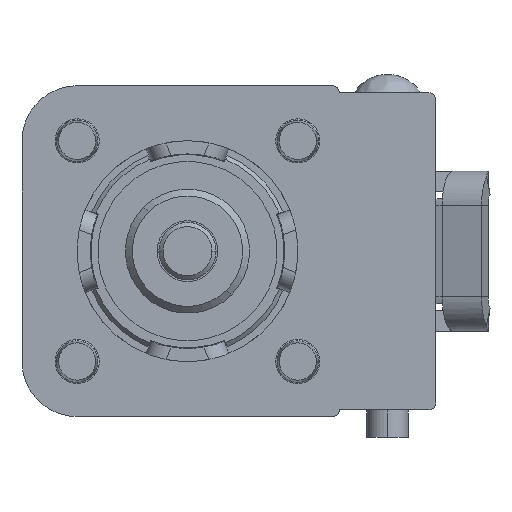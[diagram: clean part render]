
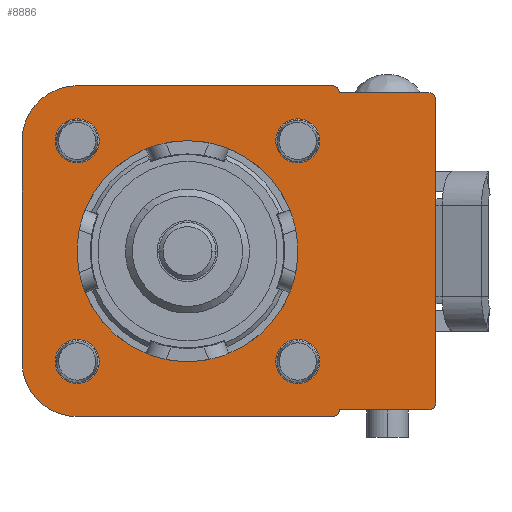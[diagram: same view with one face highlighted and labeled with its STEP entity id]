
A CAD part, front view. The second image highlights one B-rep face of the part: STEP entity #8886.
In plain terms, the highlighted planar face has unit normal (0, -1, 0).
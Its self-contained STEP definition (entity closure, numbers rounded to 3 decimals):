
#337=CARTESIAN_POINT('',(10.5,0.,11.5));
#338=DIRECTION('',(0.,-1.,0.));
#339=DIRECTION('',(1.,0.,0.));
#340=AXIS2_PLACEMENT_3D('',#337,#338,#339);
#395=DIRECTION('',(-1.,0.,0.));
#396=VECTOR('',#395,6.5);
#397=CARTESIAN_POINT('',(17.5,0.,11.5));
#398=LINE('',#397,#396);
#402=DIRECTION('',(0.,0.,-1.));
#403=VECTOR('',#402,22.);
#404=CARTESIAN_POINT('',(18.,0.,11.));
#405=LINE('',#404,#403);
#409=DIRECTION('',(-1.,0.,0.));
#410=VECTOR('',#409,6.5);
#411=CARTESIAN_POINT('',(17.5,0.,-11.5));
#412=LINE('',#411,#410);
#416=DIRECTION('',(-1.,0.,0.));
#417=VECTOR('',#416,18.5);
#418=CARTESIAN_POINT('',(10.5,0.,-12.));
#419=LINE('',#418,#417);
#423=DIRECTION('',(0.,0.,1.));
#424=VECTOR('',#423,16.);
#425=CARTESIAN_POINT('',(-12.,0.,-8.));
#426=LINE('',#425,#424);
#430=DIRECTION('',(1.,0.,0.));
#431=VECTOR('',#430,18.5);
#432=CARTESIAN_POINT('',(-8.,0.,12.));
#433=LINE('',#432,#431);
#437=CARTESIAN_POINT('',(0.,0.,0.));
#438=DIRECTION('',(0.,-1.,0.));
#439=DIRECTION('',(0.,0.,-1.));
#440=AXIS2_PLACEMENT_3D('',#437,#438,#439);
#445=CARTESIAN_POINT('',(0.,0.,0.));
#446=DIRECTION('',(0.,-1.,0.));
#447=DIRECTION('',(0.,0.,1.));
#448=AXIS2_PLACEMENT_3D('',#445,#446,#447);
#453=CARTESIAN_POINT('',(8.,0.,-8.));
#454=DIRECTION('',(0.,1.,0.));
#455=DIRECTION('',(1.,0.,0.));
#456=AXIS2_PLACEMENT_3D('',#453,#454,#455);
#461=CARTESIAN_POINT('',(8.,0.,-8.));
#462=DIRECTION('',(0.,1.,0.));
#463=DIRECTION('',(-1.,0.,0.));
#464=AXIS2_PLACEMENT_3D('',#461,#462,#463);
#469=CARTESIAN_POINT('',(-8.,0.,-8.));
#470=DIRECTION('',(0.,1.,0.));
#471=DIRECTION('',(1.,0.,0.));
#472=AXIS2_PLACEMENT_3D('',#469,#470,#471);
#477=CARTESIAN_POINT('',(-8.,0.,-8.));
#478=DIRECTION('',(0.,1.,0.));
#479=DIRECTION('',(-1.,0.,0.));
#480=AXIS2_PLACEMENT_3D('',#477,#478,#479);
#485=CARTESIAN_POINT('',(-8.,0.,8.));
#486=DIRECTION('',(0.,1.,0.));
#487=DIRECTION('',(1.,0.,0.));
#488=AXIS2_PLACEMENT_3D('',#485,#486,#487);
#493=CARTESIAN_POINT('',(-8.,0.,8.));
#494=DIRECTION('',(0.,1.,0.));
#495=DIRECTION('',(-1.,0.,0.));
#496=AXIS2_PLACEMENT_3D('',#493,#494,#495);
#501=CARTESIAN_POINT('',(8.,0.,8.));
#502=DIRECTION('',(0.,1.,0.));
#503=DIRECTION('',(1.,0.,0.));
#504=AXIS2_PLACEMENT_3D('',#501,#502,#503);
#509=CARTESIAN_POINT('',(8.,0.,8.));
#510=DIRECTION('',(0.,1.,0.));
#511=DIRECTION('',(-1.,0.,0.));
#512=AXIS2_PLACEMENT_3D('',#509,#510,#511);
#531=CARTESIAN_POINT('',(17.5,0.,11.));
#532=DIRECTION('',(0.,-1.,0.));
#533=DIRECTION('',(1.,0.,0.));
#534=AXIS2_PLACEMENT_3D('',#531,#532,#533);
#1209=CARTESIAN_POINT('',(17.5,0.,-11.));
#1210=DIRECTION('',(0.,-1.,0.));
#1211=DIRECTION('',(0.,0.,-1.));
#1212=AXIS2_PLACEMENT_3D('',#1209,#1210,#1211);
#1443=CARTESIAN_POINT('',(10.5,0.,-11.5));
#1444=DIRECTION('',(0.,-1.,0.));
#1445=DIRECTION('',(0.,0.,-1.));
#1446=AXIS2_PLACEMENT_3D('',#1443,#1444,#1445);
#1556=CARTESIAN_POINT('',(-8.,0.,8.));
#1557=DIRECTION('',(0.,-1.,0.));
#1558=DIRECTION('',(0.,0.,1.));
#1559=AXIS2_PLACEMENT_3D('',#1556,#1557,#1558);
#1578=CARTESIAN_POINT('',(-8.,0.,-8.));
#1579=DIRECTION('',(0.,-1.,0.));
#1580=DIRECTION('',(-1.,0.,0.));
#1581=AXIS2_PLACEMENT_3D('',#1578,#1579,#1580);
#7643=CARTESIAN_POINT('',(0.,0.,-8.));
#7645=VERTEX_POINT('',#7643);
#7647=CARTESIAN_POINT('',(0.,0.,8.));
#7649=VERTEX_POINT('',#7647);
#7759=CARTESIAN_POINT('',(9.6,0.,-8.));
#7760=CARTESIAN_POINT('',(6.4,0.,-8.));
#7761=VERTEX_POINT('',#7759);
#7762=VERTEX_POINT('',#7760);
#7763=CARTESIAN_POINT('',(-6.4,0.,-8.));
#7764=CARTESIAN_POINT('',(-9.6,0.,-8.));
#7765=VERTEX_POINT('',#7763);
#7766=VERTEX_POINT('',#7764);
#7767=CARTESIAN_POINT('',(-6.4,0.,8.));
#7768=CARTESIAN_POINT('',(-9.6,0.,8.));
#7769=VERTEX_POINT('',#7767);
#7770=VERTEX_POINT('',#7768);
#7771=CARTESIAN_POINT('',(9.6,0.,8.));
#7772=CARTESIAN_POINT('',(6.4,0.,8.));
#7773=VERTEX_POINT('',#7771);
#7774=VERTEX_POINT('',#7772);
#7851=CARTESIAN_POINT('',(17.5,0.,11.5));
#7852=VERTEX_POINT('',#7851);
#7853=CARTESIAN_POINT('',(18.,0.,11.));
#7854=VERTEX_POINT('',#7853);
#7871=CARTESIAN_POINT('',(18.,0.,-11.));
#7872=VERTEX_POINT('',#7871);
#7873=CARTESIAN_POINT('',(17.5,0.,-11.5));
#7874=VERTEX_POINT('',#7873);
#7877=CARTESIAN_POINT('',(-8.,0.,12.));
#7878=CARTESIAN_POINT('',(-12.,0.,8.));
#7879=VERTEX_POINT('',#7877);
#7880=VERTEX_POINT('',#7878);
#7881=CARTESIAN_POINT('',(-12.,0.,-8.));
#7882=CARTESIAN_POINT('',(-8.,0.,-12.));
#7883=VERTEX_POINT('',#7881);
#7884=VERTEX_POINT('',#7882);
#7901=CARTESIAN_POINT('',(11.,0.,11.5));
#7902=CARTESIAN_POINT('',(10.5,0.,12.));
#7903=VERTEX_POINT('',#7901);
#7904=VERTEX_POINT('',#7902);
#7910=CARTESIAN_POINT('',(10.5,0.,-12.));
#7911=VERTEX_POINT('',#7910);
#7912=CARTESIAN_POINT('',(11.,0.,-11.5));
#7913=VERTEX_POINT('',#7912);
#8827=CARTESIAN_POINT('',(0.,0.,0.));
#8828=DIRECTION('',(0.,1.,0.));
#8829=DIRECTION('',(1.,0.,0.));
#8830=AXIS2_PLACEMENT_3D('',#8827,#8828,#8829);
#8831=PLANE('',#8830);
#8832=ORIENTED_EDGE('',*,*,#8778,.F.);
#8833=ORIENTED_EDGE('',*,*,#8800,.F.);
#8835=ORIENTED_EDGE('',*,*,#8834,.F.);
#8837=ORIENTED_EDGE('',*,*,#8836,.T.);
#8839=ORIENTED_EDGE('',*,*,#8838,.F.);
#8841=ORIENTED_EDGE('',*,*,#8840,.T.);
#8843=ORIENTED_EDGE('',*,*,#8842,.F.);
#8845=ORIENTED_EDGE('',*,*,#8844,.T.);
#8847=ORIENTED_EDGE('',*,*,#8846,.F.);
#8849=ORIENTED_EDGE('',*,*,#8848,.T.);
#8851=ORIENTED_EDGE('',*,*,#8850,.F.);
#8853=ORIENTED_EDGE('',*,*,#8852,.T.);
#8854=EDGE_LOOP('',(#8832,#8833,#8835,#8837,#8839,#8841,#8843,#8845,#8847,#8849,
#8851,#8853));
#8855=FACE_OUTER_BOUND('',#8854,.F.);
#8857=ORIENTED_EDGE('',*,*,#8856,.T.);
#8859=ORIENTED_EDGE('',*,*,#8858,.T.);
#8860=EDGE_LOOP('',(#8857,#8859));
#8861=FACE_BOUND('',#8860,.F.);
#8863=ORIENTED_EDGE('',*,*,#8862,.F.);
#8865=ORIENTED_EDGE('',*,*,#8864,.F.);
#8866=EDGE_LOOP('',(#8863,#8865));
#8867=FACE_BOUND('',#8866,.F.);
#8869=ORIENTED_EDGE('',*,*,#8868,.F.);
#8871=ORIENTED_EDGE('',*,*,#8870,.F.);
#8872=EDGE_LOOP('',(#8869,#8871));
#8873=FACE_BOUND('',#8872,.F.);
#8875=ORIENTED_EDGE('',*,*,#8874,.F.);
#8877=ORIENTED_EDGE('',*,*,#8876,.F.);
#8878=EDGE_LOOP('',(#8875,#8877));
#8879=FACE_BOUND('',#8878,.F.);
#8881=ORIENTED_EDGE('',*,*,#8880,.F.);
#8883=ORIENTED_EDGE('',*,*,#8882,.F.);
#8884=EDGE_LOOP('',(#8881,#8883));
#8885=FACE_BOUND('',#8884,.F.);
#341=CIRCLE('',#340,0.5);
#441=CIRCLE('',#440,8.);
#449=CIRCLE('',#448,8.);
#457=CIRCLE('',#456,1.6);
#465=CIRCLE('',#464,1.6);
#473=CIRCLE('',#472,1.6);
#481=CIRCLE('',#480,1.6);
#489=CIRCLE('',#488,1.6);
#497=CIRCLE('',#496,1.6);
#505=CIRCLE('',#504,1.6);
#513=CIRCLE('',#512,1.6);
#535=CIRCLE('',#534,0.5);
#1213=CIRCLE('',#1212,0.5);
#1447=CIRCLE('',#1446,0.5);
#1560=CIRCLE('',#1559,4.);
#1582=CIRCLE('',#1581,4.);
#8778=EDGE_CURVE('',#7903,#7904,#341,.T.);
#8800=EDGE_CURVE('',#7852,#7903,#398,.T.);
#8834=EDGE_CURVE('',#7854,#7852,#535,.T.);
#8836=EDGE_CURVE('',#7854,#7872,#405,.T.);
#8838=EDGE_CURVE('',#7874,#7872,#1213,.T.);
#8840=EDGE_CURVE('',#7874,#7913,#412,.T.);
#8842=EDGE_CURVE('',#7911,#7913,#1447,.T.);
#8844=EDGE_CURVE('',#7911,#7884,#419,.T.);
#8846=EDGE_CURVE('',#7883,#7884,#1582,.T.);
#8848=EDGE_CURVE('',#7883,#7880,#426,.T.);
#8850=EDGE_CURVE('',#7879,#7880,#1560,.T.);
#8852=EDGE_CURVE('',#7879,#7904,#433,.T.);
#8856=EDGE_CURVE('',#7645,#7649,#441,.T.);
#8858=EDGE_CURVE('',#7649,#7645,#449,.T.);
#8862=EDGE_CURVE('',#7761,#7762,#457,.T.);
#8864=EDGE_CURVE('',#7762,#7761,#465,.T.);
#8868=EDGE_CURVE('',#7765,#7766,#473,.T.);
#8870=EDGE_CURVE('',#7766,#7765,#481,.T.);
#8874=EDGE_CURVE('',#7769,#7770,#489,.T.);
#8876=EDGE_CURVE('',#7770,#7769,#497,.T.);
#8880=EDGE_CURVE('',#7773,#7774,#505,.T.);
#8882=EDGE_CURVE('',#7774,#7773,#513,.T.);
#8886=ADVANCED_FACE('',(#8855,#8861,#8867,#8873,#8879,#8885),#8831,.F.);
